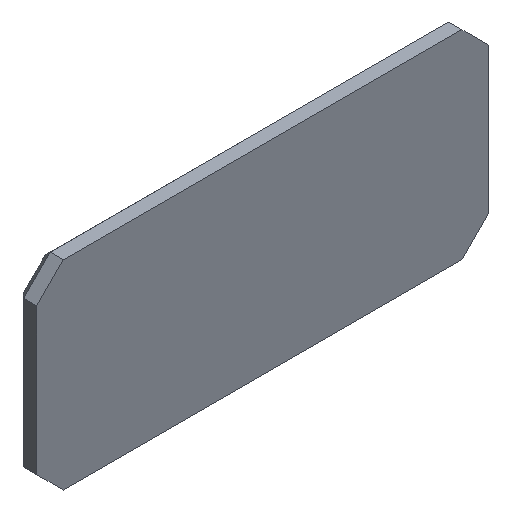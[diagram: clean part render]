
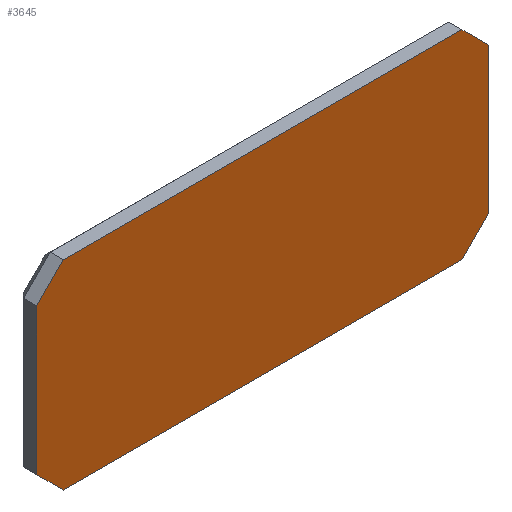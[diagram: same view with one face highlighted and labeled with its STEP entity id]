
A CAD part, isometric view. The second image highlights one B-rep face of the part: STEP entity #3645.
In plain terms, the highlighted planar face has unit normal (0, -1, 0).
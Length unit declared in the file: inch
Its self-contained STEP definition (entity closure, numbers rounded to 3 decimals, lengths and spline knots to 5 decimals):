
#517=FACE_OUTER_BOUND('',#726,.T.);
#726=EDGE_LOOP('',(#3342,#3343,#3344,#3345,#3346,#3347,#3348,#3349));
#752=LINE('',#4349,#1089);
#755=LINE('',#4354,#1092);
#757=LINE('',#4358,#1094);
#759=LINE('',#4362,#1096);
#846=LINE('',#4959,#1183);
#848=LINE('',#4963,#1185);
#850=LINE('',#4966,#1187);
#1063=LINE('',#7040,#1400);
#1089=VECTOR('',#3804,0.3937);
#1092=VECTOR('',#3809,0.3937);
#1094=VECTOR('',#3813,0.3937);
#1096=VECTOR('',#3817,0.3937);
#1183=VECTOR('',#3942,0.3937);
#1185=VECTOR('',#3946,0.3937);
#1187=VECTOR('',#3950,0.3937);
#1400=VECTOR('',#4291,0.3937);
#1417=VERTEX_POINT('',#4346);
#1418=VERTEX_POINT('',#4348);
#1419=VERTEX_POINT('',#4352);
#1420=VERTEX_POINT('',#4356);
#1421=VERTEX_POINT('',#4360);
#1561=VERTEX_POINT('',#4956);
#1562=VERTEX_POINT('',#4958);
#1563=VERTEX_POINT('',#4962);
#1776=EDGE_CURVE('',#1417,#1418,#752,.T.);
#1779=EDGE_CURVE('',#1417,#1419,#755,.T.);
#1781=EDGE_CURVE('',#1420,#1419,#757,.T.);
#1783=EDGE_CURVE('',#1420,#1421,#759,.T.);
#1940=EDGE_CURVE('',#1561,#1562,#846,.T.);
#1942=EDGE_CURVE('',#1563,#1562,#848,.T.);
#1944=EDGE_CURVE('',#1563,#1421,#850,.T.);
#2283=EDGE_CURVE('',#1561,#1418,#1063,.T.);
#3342=ORIENTED_EDGE('',*,*,#1940,.F.);
#3343=ORIENTED_EDGE('',*,*,#2283,.T.);
#3344=ORIENTED_EDGE('',*,*,#1776,.F.);
#3345=ORIENTED_EDGE('',*,*,#1779,.T.);
#3346=ORIENTED_EDGE('',*,*,#1781,.F.);
#3347=ORIENTED_EDGE('',*,*,#1783,.T.);
#3348=ORIENTED_EDGE('',*,*,#1944,.F.);
#3349=ORIENTED_EDGE('',*,*,#1942,.T.);
#3448=PLANE('',#3758);
#3645=ADVANCED_FACE('',(#517),#3448,.T.);
#3758=AXIS2_PLACEMENT_3D('',#7042,#4294,#4295);
#3804=DIRECTION('',(0.707,0.,0.707));
#3809=DIRECTION('',(0.,0.,-1.));
#3813=DIRECTION('',(-0.707,0.,0.707));
#3817=DIRECTION('',(1.,0.,0.));
#3942=DIRECTION('',(0.707,0.,-0.707));
#3946=DIRECTION('',(0.,0.,1.));
#3950=DIRECTION('',(-0.707,0.,-0.707));
#4291=DIRECTION('',(-1.,0.,0.));
#4294=DIRECTION('center_axis',(0.,-1.,0.));
#4295=DIRECTION('ref_axis',(0.,0.,-1.));
#4346=CARTESIAN_POINT('',(0.,-0.04,-0.1));
#4348=CARTESIAN_POINT('',(0.1,-0.04,0.));
#4349=CARTESIAN_POINT('',(0.16875,-0.04,0.06875));
#4352=CARTESIAN_POINT('',(0.,-0.04,-0.65));
#4354=CARTESIAN_POINT('',(0.,-0.04,-0.75));
#4356=CARTESIAN_POINT('',(0.1,-0.04,-0.75));
#4358=CARTESIAN_POINT('',(0.16875,-0.04,-0.81875));
#4360=CARTESIAN_POINT('',(1.6,-0.04,-0.75));
#4362=CARTESIAN_POINT('',(1.7,-0.04,-0.75));
#4956=CARTESIAN_POINT('',(1.6,-0.04,0.));
#4958=CARTESIAN_POINT('',(1.7,-0.04,-0.1));
#4959=CARTESIAN_POINT('',(1.53125,-0.04,0.06875));
#4962=CARTESIAN_POINT('',(1.7,-0.04,-0.65));
#4963=CARTESIAN_POINT('',(1.7,-0.04,0.));
#4966=CARTESIAN_POINT('',(1.53125,-0.04,-0.81875));
#7040=CARTESIAN_POINT('',(0.,-0.04,0.));
#7042=CARTESIAN_POINT('Origin',(0.85,-0.04,-0.375));
